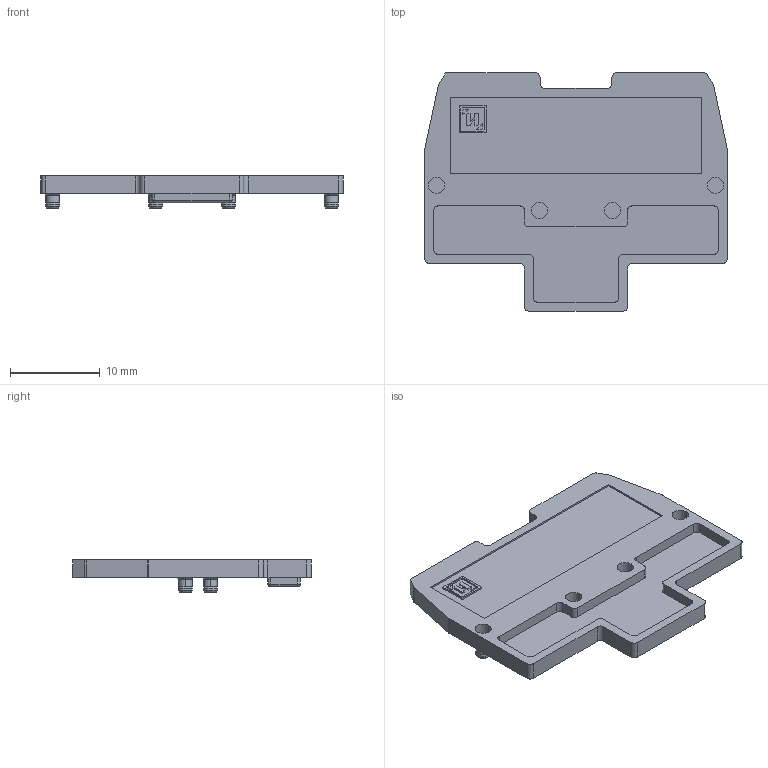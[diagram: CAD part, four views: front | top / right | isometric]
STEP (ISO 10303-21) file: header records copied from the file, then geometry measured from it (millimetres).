
FILE_DESCRIPTION (( 'STEP AP203' ), '1' );
FILE_NAME ('阎褪. 757537.064 牮赅.STEP', '2021-10-06T06:04:03', ( '' ), ( '' ), 'SwSTEP 2.0', 'SolidWorks 2016', '' );
FILE_SCHEMA (( 'CONFIG_CONTROL_DESIGN' ));
Length unit declared in the file: millimetre
Products named in the file (1): 阎褪. 757537.064 牮赅
Bounding box: 33.6 x 26.5 x 3.6 mm (x, y, z)
Volume: 923.3 mm3; surface area: 2035.6 mm2
Topology: 1 solids, 1 shells, 255 faces, 654 edges, 414 vertices
Faces by surface type: plane 140, cylinder 83, cone 24, sphere 6, torus 2
Entity records: 7711 total; most frequent: DIRECTION 1344, CARTESIAN_POINT 1318, ORIENTED_EDGE 1296, EDGE_CURVE 648, VECTOR 464, LINE 464, AXIS2_PLACEMENT_3D 440, VERTEX_POINT 414
